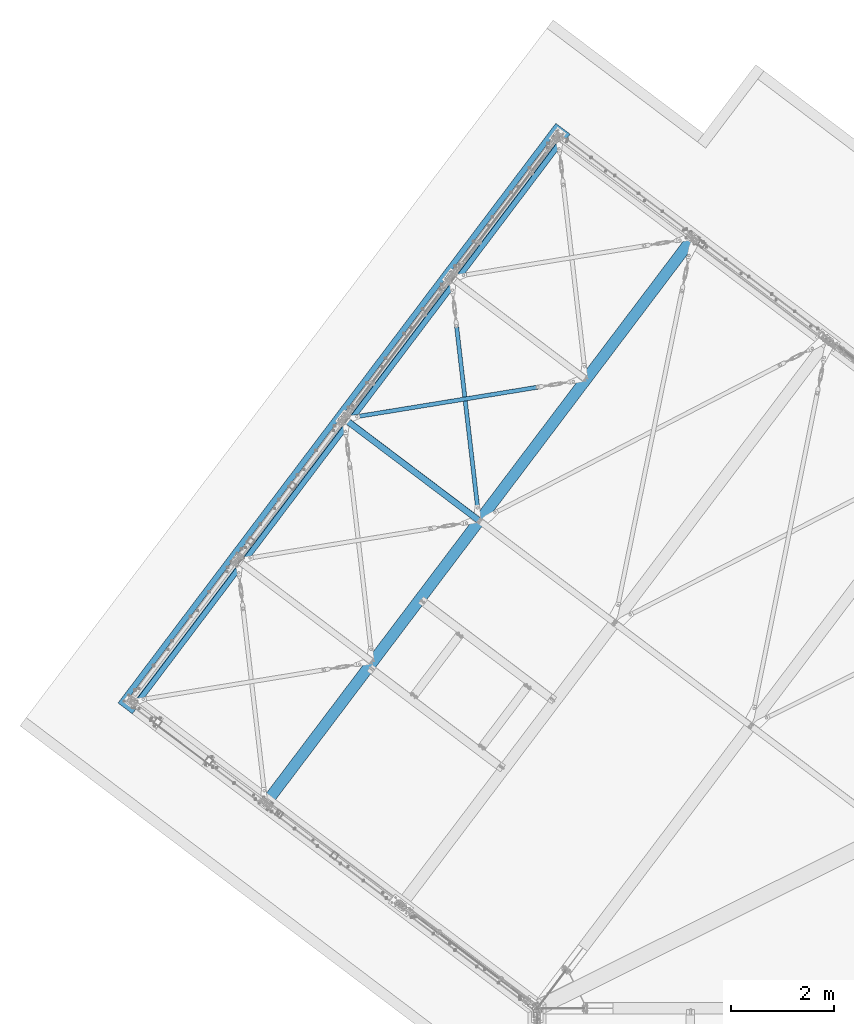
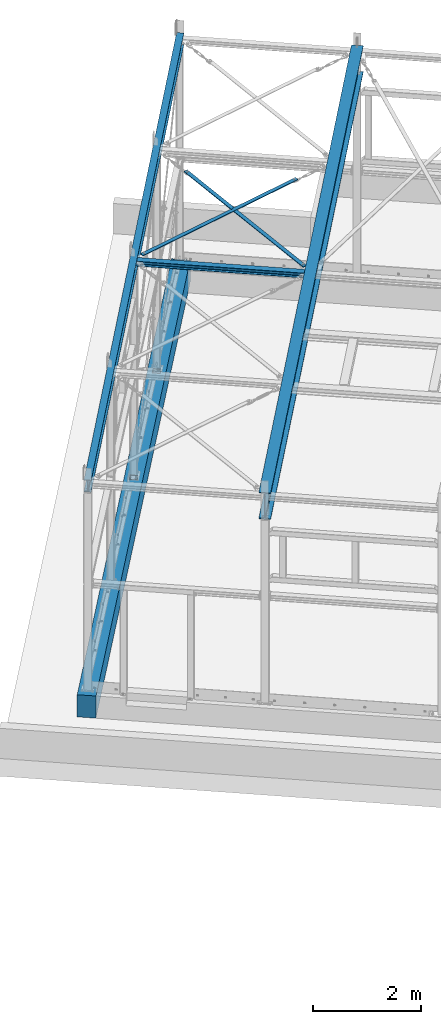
# One storey, part 22 of 476: 4 members, 2 beams, 62 openings.
"""IFC2X3 building model written with IfcOpenShell, lengths in millimetres."""

from ifc_helpers import new_model, entity, si_unit, converted_unit, frame, frame_2d, origin, origin_with_axes, origin_2d, origin_2d_with_axis, place, context, project, spatial, polyline, rectangle, circle, i_section, outline, extrude, clip, halfspace, material, element, save


model = new_model("IFC2X3")

# Units and contexts
model_context = context("Model", 3, precision=1e-09, world=origin_with_axes())
ifc_project = project(units=[si_unit("LENGTHUNIT", "METRE", prefix="MILLI"), si_unit("AREAUNIT", "SQUARE_METRE"), si_unit("VOLUMEUNIT", "CUBIC_METRE"), converted_unit("PLANEANGLEUNIT", "DEGREE", entity("IfcPlaneAngleMeasure", 0.01745329), si_unit("PLANEANGLEUNIT", "RADIAN"), dimensions=[0, 0, 0, 0, 0, 0, 0])], contexts=[model_context])

# Site, building, storey
site_placement = place(None, origin_with_axes())
site = spatial("IfcSite", under=ifc_project, at=site_placement, Name="mKR Teilneubau & Sanierung BA1 - Ostfildern", CompositionType="ELEMENT")
building_placement = place(site_placement, origin_with_axes())
building = spatial("IfcBuilding", under=site, at=building_placement, Name="Struktur 1", CompositionType="ELEMENT")
storey_placement = place(building_placement, origin_with_axes())
storey = spatial("IfcBuildingStorey", under=building, at=storey_placement, Name="Default Storey", CompositionType="ELEMENT", Elevation=0.0)

# Member, openings
ifc_material_1 = material(Name="S235JR")
member_1_placement = place(None, frame((8238.874919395, 6161.685260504, 5513.508843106), z_axis=(-0.986798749, -0.160487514, -0.021725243), x_axis=(0.018108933, 0.0239618, -0.999548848)))
member_1 = element("IfcMember", 1, at=member_1_placement, inside=storey, material=ifc_material_1, Name="-", ObjectType="-", context=model_context, shape_type="SweptSolid", body=[
    extrude(rectangle(XDim=15.0, YDim=80.0, at=origin_2d()), origin(), (0.0, 0.0, 1.0), 3695.564817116),
])
opening_1_placement = place(member_1_placement, frame((8.0, 0.0, 45.499), z_axis=(1.0, 0.0, 0.0), x_axis=(0.0, 1.0, 0.0)))
element("IfcOpeningElement", 2, at=opening_1_placement, cuts=member_1, ObjectType="Opening", context=model_context, shape_type="SweptSolid", body=[
    extrude(circle(Radius=14.501, at=frame_2d((0.0, 14.501), x_axis=(1.0, 0.0))), origin(), (0.0, 0.0, -1.0), 16.0),
])
opening_2_placement = place(member_1_placement, frame((8.0, 0.0, 3621.06381712), z_axis=(1.0, 0.0, 0.0), x_axis=(0.0, 1.0, 0.0)))
element("IfcOpeningElement", 3, at=opening_2_placement, cuts=member_1, ObjectType="Opening", context=model_context, shape_type="SweptSolid", body=[
    extrude(circle(Radius=14.501, at=frame_2d((0.0, 14.501), x_axis=(1.0, 0.0))), origin(), (0.0, 0.0, -1.0), 16.0),
])

member_2_placement = place(None, frame((2580.273087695, -2349.483284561, 4959.248116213), z_axis=(0.602462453, 0.797581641, 0.030041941), x_axis=(-0.797941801, 0.602734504, 0.0)))
member_2 = element("IfcMember", 4, at=member_2_placement, inside=storey, material=ifc_material_1, Name="-", ObjectType="-", context=model_context, shape_type="Clipping", body=[
    clip(clip(extrude(i_section(OverallWidth=220.0, OverallDepth=600.0, WebThickness=12.0, FlangeThickness=19.0, FilletRadius=24.0, at=origin_2d()), origin(), (0.0, 0.0, 1.0), 14725.706361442), halfspace(frame((3475.022396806, -4970.169003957, 288.847755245), z_axis=(0.0, -0.030041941, 0.999548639), x_axis=(1.0, 0.0, 0.0)), True)), halfspace(frame((3475.022396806, -5388.142475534, 14195.565970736), z_axis=(0.0, 0.030041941, -0.999548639), x_axis=(-1.0, 0.0, 0.0)), True)),
])
opening_3_placement = place(member_2_placement, frame((-6.5, 183.025518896, 7373.369640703), z_axis=(1.0, 0.0, 0.0), x_axis=(0.0, 1.0, 1.4557e-05)))
element("IfcOpeningElement", 5, at=opening_3_placement, cuts=member_2, ObjectType="Opening", context=model_context, shape_type="SweptSolid", body=[
    extrude(circle(Radius=7.001, at=origin_2d_with_axis()), origin(), (0.0, 0.0, 1.0), 13.0),
])
opening_4_placement = place(member_2_placement, frame((-6.5, 183.024645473, 7433.369640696), z_axis=(1.0, 0.0, 0.0), x_axis=(0.0, 1.0, 1.4557e-05)))
element("IfcOpeningElement", 6, at=opening_4_placement, cuts=member_2, ObjectType="Opening", context=model_context, shape_type="SweptSolid", body=[
    extrude(circle(Radius=7.001, at=origin_2d_with_axis()), origin(), (0.0, 0.0, 1.0), 13.0),
])
opening_5_placement = place(member_2_placement, frame((6.5, 183.02707866, 14281.485465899), z_axis=(-1.0, 0.0, 0.0), x_axis=(0.0, 1.0, 0.0)))
element("IfcOpeningElement", 7, at=opening_5_placement, cuts=member_2, ObjectType="Opening", context=model_context, shape_type="SweptSolid", body=[
    extrude(circle(Radius=7.001, at=origin_2d_with_axis()), origin(), (0.0, 0.0, 1.0), 13.0),
])
opening_6_placement = place(member_2_placement, frame((6.5, 183.02707866, 14331.485465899), z_axis=(-1.0, 0.0, 0.0), x_axis=(0.0, 1.0, 0.0)))
element("IfcOpeningElement", 8, at=opening_6_placement, cuts=member_2, ObjectType="Opening", context=model_context, shape_type="SweptSolid", body=[
    extrude(circle(Radius=7.001, at=origin_2d_with_axis()), origin(), (0.0, 0.0, 1.0), 13.0),
])
opening_7_placement = place(member_2_placement, frame((-6.5, 183.027080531, 525.253903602), z_axis=(1.0, 0.0, 0.0), x_axis=(0.0, 1.0, 0.0)))
element("IfcOpeningElement", 9, at=opening_7_placement, cuts=member_2, ObjectType="Opening", context=model_context, shape_type="SweptSolid", body=[
    extrude(circle(Radius=7.001, at=origin_2d_with_axis()), origin(), (0.0, 0.0, 1.0), 13.0),
])
opening_8_placement = place(member_2_placement, frame((-6.5, 183.027080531, 475.253903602), z_axis=(1.0, 0.0, 0.0), x_axis=(0.0, 1.0, 0.0)))
element("IfcOpeningElement", 10, at=opening_8_placement, cuts=member_2, ObjectType="Opening", context=model_context, shape_type="SweptSolid", body=[
    extrude(circle(Radius=7.001, at=origin_2d_with_axis()), origin(), (0.0, 0.0, 1.0), 13.0),
])
opening_9_placement = place(member_2_placement, frame((37.999, -300.5, 14263.867080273), z_axis=(0.0, -1.0, 0.0), x_axis=(1.0, 0.0, 0.0)))
element("IfcOpeningElement", 11, at=opening_9_placement, cuts=member_2, ObjectType="Opening", context=model_context, shape_type="SweptSolid", body=[
    extrude(circle(Radius=7.001, at=frame_2d((7.001, 0.0), x_axis=(1.0, 0.0))), origin(), (0.0, 0.0, -1.0), 20.0),
])
opening_10_placement = place(member_2_placement, frame((-52.001, -300.5, 14318.867080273), z_axis=(0.0, -1.0, 0.0), x_axis=(1.0, 0.0, 0.0)))
element("IfcOpeningElement", 12, at=opening_10_placement, cuts=member_2, ObjectType="Opening", context=model_context, shape_type="SweptSolid", body=[
    extrude(circle(Radius=7.001, at=frame_2d((7.001, 0.0), x_axis=(1.0, 0.0))), origin(), (0.0, 0.0, -1.0), 20.0),
])
opening_11_placement = place(member_2_placement, frame((37.999, -300.5, 14318.867080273), z_axis=(0.0, -1.0, 0.0), x_axis=(1.0, 0.0, 0.0)))
element("IfcOpeningElement", 13, at=opening_11_placement, cuts=member_2, ObjectType="Opening", context=model_context, shape_type="SweptSolid", body=[
    extrude(circle(Radius=7.001, at=frame_2d((7.001, 0.0), x_axis=(1.0, 0.0))), origin(), (0.0, 0.0, -1.0), 20.0),
])
opening_12_placement = place(member_2_placement, frame((-52.001, -300.5, 14263.867080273), z_axis=(0.0, -1.0, 0.0), x_axis=(1.0, 0.0, 0.0)))
element("IfcOpeningElement", 14, at=opening_12_placement, cuts=member_2, ObjectType="Opening", context=model_context, shape_type="SweptSolid", body=[
    extrude(circle(Radius=7.001, at=frame_2d((7.001, 0.0), x_axis=(1.0, 0.0))), origin(), (0.0, 0.0, -1.0), 20.0),
])
opening_13_placement = place(member_2_placement, frame((-6.5, 247.888062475, 14352.955309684), z_axis=(1.0, 0.0, 0.0), x_axis=(0.0, 0.030041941, -0.999548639)))
element("IfcOpeningElement", 15, at=opening_13_placement, cuts=member_2, ObjectType="Opening", context=model_context, shape_type="SweptSolid", body=[
    extrude(circle(Radius=7.001, at=origin_2d_with_axis()), origin(), (0.0, 0.0, 1.0), 13.0),
])
opening_14_placement = place(member_2_placement, frame((-6.5, -247.888062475, 14338.054506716), z_axis=(1.0, 0.0, 0.0), x_axis=(0.0, 0.030041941, -0.999548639)))
element("IfcOpeningElement", 16, at=opening_14_placement, cuts=member_2, ObjectType="Opening", context=model_context, shape_type="SweptSolid", body=[
    extrude(circle(Radius=7.001, at=origin_2d_with_axis()), origin(), (0.0, 0.0, 1.0), 13.0),
])
opening_15_placement = place(member_2_placement, frame((-37.999, -300.5, 457.635427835), z_axis=(0.0, -1.0, 0.0), x_axis=(1.0, 0.0, 0.0)))
element("IfcOpeningElement", 17, at=opening_15_placement, cuts=member_2, ObjectType="Opening", context=model_context, shape_type="SweptSolid", body=[
    extrude(circle(Radius=7.001, at=frame_2d((-7.001, 0.0), x_axis=(1.0, 0.0))), origin(), (0.0, 0.0, -1.0), 20.0),
])
opening_16_placement = place(member_2_placement, frame((-37.999, -300.5, 512.635427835), z_axis=(0.0, -1.0, 0.0), x_axis=(1.0, 0.0, 0.0)))
element("IfcOpeningElement", 18, at=opening_16_placement, cuts=member_2, ObjectType="Opening", context=model_context, shape_type="SweptSolid", body=[
    extrude(circle(Radius=7.001, at=frame_2d((-7.001, 0.0), x_axis=(1.0, 0.0))), origin(), (0.0, 0.0, -1.0), 20.0),
])
opening_17_placement = place(member_2_placement, frame((52.001, -300.5, 457.635427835), z_axis=(0.0, -1.0, 0.0), x_axis=(1.0, 0.0, 0.0)))
element("IfcOpeningElement", 19, at=opening_17_placement, cuts=member_2, ObjectType="Opening", context=model_context, shape_type="SweptSolid", body=[
    extrude(circle(Radius=7.001, at=frame_2d((-7.001, 0.0), x_axis=(1.0, 0.0))), origin(), (0.0, 0.0, -1.0), 20.0),
])
opening_18_placement = place(member_2_placement, frame((52.001, -300.5, 512.635427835), z_axis=(0.0, -1.0, 0.0), x_axis=(1.0, 0.0, 0.0)))
element("IfcOpeningElement", 20, at=opening_18_placement, cuts=member_2, ObjectType="Opening", context=model_context, shape_type="SweptSolid", body=[
    extrude(circle(Radius=7.001, at=frame_2d((-7.001, 0.0), x_axis=(1.0, 0.0))), origin(), (0.0, 0.0, -1.0), 20.0),
])
opening_19_placement = place(member_2_placement, frame((6.5, 247.888062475, 457.683526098), z_axis=(-1.0, 0.0, 0.0), x_axis=(0.0, -0.030041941, 0.999548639)))
element("IfcOpeningElement", 21, at=opening_19_placement, cuts=member_2, ObjectType="Opening", context=model_context, shape_type="SweptSolid", body=[
    extrude(circle(Radius=7.001, at=origin_2d_with_axis()), origin(), (0.0, 0.0, 1.0), 13.0),
])
opening_20_placement = place(member_2_placement, frame((6.5, -247.888062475, 442.782723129), z_axis=(-1.0, 0.0, 0.0), x_axis=(0.0, -0.030041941, 0.999548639)))
element("IfcOpeningElement", 22, at=opening_20_placement, cuts=member_2, ObjectType="Opening", context=model_context, shape_type="SweptSolid", body=[
    extrude(circle(Radius=7.001, at=origin_2d_with_axis()), origin(), (0.0, 0.0, 1.0), 13.0),
])
opening_21_placement = place(member_2_placement, frame((-6.5, 183.026702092, 10824.926021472), z_axis=(1.0, 0.0, 0.0), x_axis=(0.0, 1.0, 2.069e-05)))
element("IfcOpeningElement", 23, at=opening_21_placement, cuts=member_2, ObjectType="Opening", context=model_context, shape_type="SweptSolid", body=[
    extrude(circle(Radius=7.001, at=origin_2d_with_axis()), origin(), (0.0, 0.0, 1.0), 13.0),
])
opening_22_placement = place(member_2_placement, frame((-6.5, 183.025460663, 10884.926021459), z_axis=(1.0, 0.0, 0.0), x_axis=(0.0, 1.0, 2.069e-05)))
element("IfcOpeningElement", 24, at=opening_22_placement, cuts=member_2, ObjectType="Opening", context=model_context, shape_type="SweptSolid", body=[
    extrude(circle(Radius=7.001, at=origin_2d_with_axis()), origin(), (0.0, 0.0, 1.0), 13.0),
])
opening_23_placement = place(member_2_placement, frame((-6.5, 183.027080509, 3981.810209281), z_axis=(1.0, 0.0, 0.0), x_axis=(0.0, 1.0, 0.0)))
element("IfcOpeningElement", 25, at=opening_23_placement, cuts=member_2, ObjectType="Opening", context=model_context, shape_type="SweptSolid", body=[
    extrude(circle(Radius=7.001, at=origin_2d_with_axis()), origin(), (0.0, 0.0, 1.0), 13.0),
])
opening_24_placement = place(member_2_placement, frame((-6.5, 183.027080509, 3921.810209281), z_axis=(1.0, 0.0, 0.0), x_axis=(0.0, 1.0, 0.0)))
element("IfcOpeningElement", 26, at=opening_24_placement, cuts=member_2, ObjectType="Opening", context=model_context, shape_type="SweptSolid", body=[
    extrude(circle(Radius=7.001, at=origin_2d_with_axis()), origin(), (0.0, 0.0, 1.0), 13.0),
])

member_3_placement = place(None, frame((122.900229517, -133.483637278, 5132.951420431), z_axis=(0.602462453, 0.797581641, 0.030041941), x_axis=(-0.797941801, 0.602734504, 0.0)))
member_3 = element("IfcMember", 27, at=member_3_placement, inside=storey, material=ifc_material_1, Name="-", ObjectType="-", context=model_context, shape_type="Clipping", body=[
    clip(extrude(i_section(OverallWidth=135.0, OverallDepth=270.0, WebThickness=6.6, FlangeThickness=10.2, FilletRadius=15.0, at=origin_2d()), origin(), (0.0, 0.0, 1.0), 14138.984346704), halfspace(frame((178.522424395, -5135.169004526, -3.336364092), z_axis=(0.0, -0.030041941, 0.999548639), x_axis=(1.0, 0.0, 0.0)), True)),
])
opening_25_placement = place(member_3_placement, frame((167.600000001, -212.707520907, 14252.130323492), z_axis=(1.0, 0.0, 0.0), x_axis=(0.0, 0.030041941, -0.999548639)))
element("IfcOpeningElement", 28, at=opening_25_placement, cuts=member_3, ObjectType="Opening", context=model_context, shape_type="SweptSolid", body=[
    extrude(outline(polyline([(0.0, 0.0), (188.154025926, 0.0), (188.154025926, 443.915604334), (0.0, 443.915604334), (0.0, 0.0)])), origin(), (0.0, 0.0, -1.0), 335.200000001),
])
opening_26_placement = place(member_3_placement, frame((-30.499, -135.5, 230.369625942), z_axis=(0.0, -1.0, 0.0), x_axis=(1.0, 0.0, 0.0)))
element("IfcOpeningElement", 29, at=opening_26_placement, cuts=member_3, ObjectType="Opening", context=model_context, shape_type="SweptSolid", body=[
    extrude(circle(Radius=7.001, at=frame_2d((-7.001, 0.0), x_axis=(1.0, 0.0))), origin(), (0.0, 0.0, -1.0), 11.2),
])
opening_27_placement = place(member_3_placement, frame((44.501, -135.5, 230.369625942), z_axis=(0.0, -1.0, 0.0), x_axis=(1.0, 0.0, 0.0)))
element("IfcOpeningElement", 30, at=opening_27_placement, cuts=member_3, ObjectType="Opening", context=model_context, shape_type="SweptSolid", body=[
    extrude(circle(Radius=7.001, at=frame_2d((-7.001, 0.0), x_axis=(1.0, 0.0))), origin(), (0.0, 0.0, -1.0), 11.2),
])
opening_28_placement = place(member_3_placement, frame((44.501, -135.5, 175.369625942), z_axis=(0.0, -1.0, 0.0), x_axis=(1.0, 0.0, 0.0)))
element("IfcOpeningElement", 31, at=opening_28_placement, cuts=member_3, ObjectType="Opening", context=model_context, shape_type="SweptSolid", body=[
    extrude(circle(Radius=7.001, at=frame_2d((-7.001, 0.0), x_axis=(1.0, 0.0))), origin(), (0.0, 0.0, -1.0), 11.2),
])
opening_29_placement = place(member_3_placement, frame((-30.499, -135.5, 175.369625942), z_axis=(0.0, -1.0, 0.0), x_axis=(1.0, 0.0, 0.0)))
element("IfcOpeningElement", 32, at=opening_29_placement, cuts=member_3, ObjectType="Opening", context=model_context, shape_type="SweptSolid", body=[
    extrude(circle(Radius=7.001, at=frame_2d((-7.001, 0.0), x_axis=(1.0, 0.0))), origin(), (0.0, 0.0, -1.0), 11.2),
])
opening_30_placement = place(member_3_placement, frame((3.8, 18.027080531, 233.070107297), z_axis=(-1.0, 0.0, 0.0), x_axis=(0.0, 1.0, 0.0)))
element("IfcOpeningElement", 33, at=opening_30_placement, cuts=member_3, ObjectType="Opening", context=model_context, shape_type="SweptSolid", body=[
    extrude(circle(Radius=7.001, at=origin_2d_with_axis()), origin(), (0.0, 0.0, 1.0), 7.6),
])
opening_31_placement = place(member_3_placement, frame((3.8, 18.027080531, 183.070107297), z_axis=(-1.0, 0.0, 0.0), x_axis=(0.0, 1.0, 0.0)))
element("IfcOpeningElement", 34, at=opening_31_placement, cuts=member_3, ObjectType="Opening", context=model_context, shape_type="SweptSolid", body=[
    extrude(circle(Radius=7.001, at=origin_2d_with_axis()), origin(), (0.0, 0.0, 1.0), 7.6),
])
opening_32_placement = place(member_3_placement, frame((3.8, 100.95441254, 166.042400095), z_axis=(-1.0, 0.0, 0.0), x_axis=(0.0, -0.030041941, 0.999548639)))
element("IfcOpeningElement", 35, at=opening_32_placement, cuts=member_3, ObjectType="Opening", context=model_context, shape_type="SweptSolid", body=[
    extrude(circle(Radius=7.001, at=origin_2d_with_axis()), origin(), (0.0, 0.0, 1.0), 7.6),
])
opening_33_placement = place(member_3_placement, frame((3.8, -100.95441254, 159.973927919), z_axis=(-1.0, 0.0, 0.0), x_axis=(0.0, -0.030041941, 0.999548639)))
element("IfcOpeningElement", 36, at=opening_33_placement, cuts=member_3, ObjectType="Opening", context=model_context, shape_type="SweptSolid", body=[
    extrude(circle(Radius=7.001, at=origin_2d_with_axis()), origin(), (0.0, 0.0, 1.0), 7.6),
])
opening_34_placement = place(member_3_placement, frame((3.8, 18.027078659, 13989.301701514), z_axis=(-1.0, 0.0, 0.0), x_axis=(0.0, 1.0, 0.0)))
element("IfcOpeningElement", 37, at=opening_34_placement, cuts=member_3, ObjectType="Opening", context=model_context, shape_type="SweptSolid", body=[
    extrude(circle(Radius=7.001, at=origin_2d_with_axis()), origin(), (0.0, 0.0, 1.0), 7.6),
])
opening_35_placement = place(member_3_placement, frame((-28.999999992, -135.5, 13980.100669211), z_axis=(0.0, -1.0, 0.0), x_axis=(1.0, 0.0, 0.0)))
element("IfcOpeningElement", 38, at=opening_35_placement, cuts=member_3, ObjectType="Opening", context=model_context, shape_type="SweptSolid", body=[
    extrude(circle(Radius=7.001, at=frame_2d((0.0, -7.001), x_axis=(1.0, 0.0))), origin(), (0.0, 0.0, -1.0), 11.2),
])
opening_36_placement = place(member_3_placement, frame((36.000020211, -135.5, 10532.044351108), z_axis=(0.0, -1.0, 0.0), x_axis=(1.0, 0.0, 0.0)))
element("IfcOpeningElement", 39, at=opening_36_placement, cuts=member_3, ObjectType="Opening", context=model_context, shape_type="SweptSolid", body=[
    extrude(circle(Radius=7.001, at=frame_2d((0.0, -7.001), x_axis=(1.0, 0.0))), origin(), (0.0, 0.0, -1.0), 11.2),
])
opening_37_placement = place(member_3_placement, frame((36.000020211, -135.5, 10583.042351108), z_axis=(0.0, -1.0, 0.0), x_axis=(1.0, 0.0, 0.0)))
element("IfcOpeningElement", 40, at=opening_37_placement, cuts=member_3, ObjectType="Opening", context=model_context, shape_type="SweptSolid", body=[
    extrude(circle(Radius=7.001, at=frame_2d((0.0, 7.001), x_axis=(1.0, 0.0))), origin(), (0.0, 0.0, -1.0), 11.2),
])
opening_38_placement = place(member_3_placement, frame((-28.999999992, -135.5, 14031.098669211), z_axis=(0.0, -1.0, 0.0), x_axis=(1.0, 0.0, 0.0)))
element("IfcOpeningElement", 41, at=opening_38_placement, cuts=member_3, ObjectType="Opening", context=model_context, shape_type="SweptSolid", body=[
    extrude(circle(Radius=7.001, at=frame_2d((0.0, 7.001), x_axis=(1.0, 0.0))), origin(), (0.0, 0.0, -1.0), 11.2),
])
opening_39_placement = place(member_3_placement, frame((-28.999959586, -135.5, 7080.486452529), z_axis=(0.0, -1.0, 0.0), x_axis=(1.0, 0.0, 0.0)))
element("IfcOpeningElement", 42, at=opening_39_placement, cuts=member_3, ObjectType="Opening", context=model_context, shape_type="SweptSolid", body=[
    extrude(circle(Radius=7.001, at=frame_2d((0.0, -7.001), x_axis=(1.0, 0.0))), origin(), (0.0, 0.0, -1.0), 11.2),
])
opening_40_placement = place(member_3_placement, frame((36.000040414, -135.5, 7080.486452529), z_axis=(0.0, -1.0, 0.0), x_axis=(1.0, 0.0, 0.0)))
element("IfcOpeningElement", 43, at=opening_40_placement, cuts=member_3, ObjectType="Opening", context=model_context, shape_type="SweptSolid", body=[
    extrude(circle(Radius=7.001, at=frame_2d((0.0, -7.001), x_axis=(1.0, 0.0))), origin(), (0.0, 0.0, -1.0), 11.2),
])
opening_41_placement = place(member_3_placement, frame((36.000060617, -135.5, 3679.926553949), z_axis=(0.0, -1.0, 0.0), x_axis=(1.0, 0.0, 0.0)))
element("IfcOpeningElement", 44, at=opening_41_placement, cuts=member_3, ObjectType="Opening", context=model_context, shape_type="SweptSolid", body=[
    extrude(circle(Radius=7.001, at=frame_2d((0.0, 7.001), x_axis=(1.0, 0.0))), origin(), (0.0, 0.0, -1.0), 11.2),
])
opening_42_placement = place(member_3_placement, frame((3.8, 18.027080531, 3629.627953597), z_axis=(-1.0, 0.0, 0.0), x_axis=(0.0, 1.0, 0.0)))
element("IfcOpeningElement", 45, at=opening_42_placement, cuts=member_3, ObjectType="Opening", context=model_context, shape_type="SweptSolid", body=[
    extrude(circle(Radius=7.001, at=origin_2d_with_axis()), origin(), (0.0, 0.0, 1.0), 7.6),
])
opening_43_placement = place(member_3_placement, frame((3.8, 18.024645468, 7141.185844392), z_axis=(-1.0, 0.0, 0.0), x_axis=(0.0, 1.0, 1.4557e-05)))
element("IfcOpeningElement", 46, at=opening_43_placement, cuts=member_3, ObjectType="Opening", context=model_context, shape_type="SweptSolid", body=[
    extrude(circle(Radius=7.001, at=origin_2d_with_axis()), origin(), (0.0, 0.0, 1.0), 7.6),
])
opening_44_placement = place(member_3_placement, frame((-28.999939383, -135.5, 3679.926553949), z_axis=(0.0, -1.0, 0.0), x_axis=(1.0, 0.0, 0.0)))
element("IfcOpeningElement", 47, at=opening_44_placement, cuts=member_3, ObjectType="Opening", context=model_context, shape_type="SweptSolid", body=[
    extrude(circle(Radius=7.001, at=frame_2d((0.0, 7.001), x_axis=(1.0, 0.0))), origin(), (0.0, 0.0, -1.0), 11.2),
])
opening_45_placement = place(member_3_placement, frame((3.8, 18.027078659, 14039.301701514), z_axis=(-1.0, 0.0, 0.0), x_axis=(0.0, 1.0, 0.0)))
element("IfcOpeningElement", 48, at=opening_45_placement, cuts=member_3, ObjectType="Opening", context=model_context, shape_type="SweptSolid", body=[
    extrude(circle(Radius=7.001, at=origin_2d_with_axis()), origin(), (0.0, 0.0, 1.0), 7.6),
])
opening_46_placement = place(member_3_placement, frame((3.8, 18.025460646, 10592.743765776), z_axis=(-1.0, 0.0, 0.0), x_axis=(0.0, 1.0, 2.069e-05)))
element("IfcOpeningElement", 49, at=opening_46_placement, cuts=member_3, ObjectType="Opening", context=model_context, shape_type="SweptSolid", body=[
    extrude(circle(Radius=7.001, at=origin_2d_with_axis()), origin(), (0.0, 0.0, 1.0), 7.6),
])
opening_47_placement = place(member_3_placement, frame((3.8, 18.026702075, 10532.743765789), z_axis=(-1.0, 0.0, 0.0), x_axis=(0.0, 1.0, 2.069e-05)))
element("IfcOpeningElement", 50, at=opening_47_placement, cuts=member_3, ObjectType="Opening", context=model_context, shape_type="SweptSolid", body=[
    extrude(circle(Radius=7.001, at=origin_2d_with_axis()), origin(), (0.0, 0.0, 1.0), 7.6),
])
opening_48_placement = place(member_3_placement, frame((36.000000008, -135.5, 13980.100669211), z_axis=(0.0, -1.0, 0.0), x_axis=(1.0, 0.0, 0.0)))
element("IfcOpeningElement", 51, at=opening_48_placement, cuts=member_3, ObjectType="Opening", context=model_context, shape_type="SweptSolid", body=[
    extrude(circle(Radius=7.001, at=frame_2d((0.0, -7.001), x_axis=(1.0, 0.0))), origin(), (0.0, 0.0, -1.0), 11.2),
])
opening_49_placement = place(member_3_placement, frame((36.000000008, -135.5, 14031.098669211), z_axis=(0.0, -1.0, 0.0), x_axis=(1.0, 0.0, 0.0)))
element("IfcOpeningElement", 52, at=opening_49_placement, cuts=member_3, ObjectType="Opening", context=model_context, shape_type="SweptSolid", body=[
    extrude(circle(Radius=7.001, at=frame_2d((0.0, 7.001), x_axis=(1.0, 0.0))), origin(), (0.0, 0.0, -1.0), 11.2),
])
opening_50_placement = place(member_3_placement, frame((-28.999979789, -135.5, 10532.044351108), z_axis=(0.0, -1.0, 0.0), x_axis=(1.0, 0.0, 0.0)))
element("IfcOpeningElement", 53, at=opening_50_placement, cuts=member_3, ObjectType="Opening", context=model_context, shape_type="SweptSolid", body=[
    extrude(circle(Radius=7.001, at=frame_2d((0.0, -7.001), x_axis=(1.0, 0.0))), origin(), (0.0, 0.0, -1.0), 11.2),
])
opening_51_placement = place(member_3_placement, frame((-28.999979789, -135.5, 10583.042351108), z_axis=(0.0, -1.0, 0.0), x_axis=(1.0, 0.0, 0.0)))
element("IfcOpeningElement", 54, at=opening_51_placement, cuts=member_3, ObjectType="Opening", context=model_context, shape_type="SweptSolid", body=[
    extrude(circle(Radius=7.001, at=frame_2d((0.0, 7.001), x_axis=(1.0, 0.0))), origin(), (0.0, 0.0, -1.0), 11.2),
])
opening_52_placement = place(member_3_placement, frame((36.000060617, -135.5, 3628.928553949), z_axis=(0.0, -1.0, 0.0), x_axis=(1.0, 0.0, 0.0)))
element("IfcOpeningElement", 55, at=opening_52_placement, cuts=member_3, ObjectType="Opening", context=model_context, shape_type="SweptSolid", body=[
    extrude(circle(Radius=7.001, at=frame_2d((0.0, -7.001), x_axis=(1.0, 0.0))), origin(), (0.0, 0.0, -1.0), 11.2),
])
opening_53_placement = place(member_3_placement, frame((36.000040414, -135.5, 7131.484452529), z_axis=(0.0, -1.0, 0.0), x_axis=(1.0, 0.0, 0.0)))
element("IfcOpeningElement", 56, at=opening_53_placement, cuts=member_3, ObjectType="Opening", context=model_context, shape_type="SweptSolid", body=[
    extrude(circle(Radius=7.001, at=frame_2d((0.0, 7.001), x_axis=(1.0, 0.0))), origin(), (0.0, 0.0, -1.0), 11.2),
])
opening_54_placement = place(member_3_placement, frame((-28.999959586, -135.5, 7131.484452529), z_axis=(0.0, -1.0, 0.0), x_axis=(1.0, 0.0, 0.0)))
element("IfcOpeningElement", 57, at=opening_54_placement, cuts=member_3, ObjectType="Opening", context=model_context, shape_type="SweptSolid", body=[
    extrude(circle(Radius=7.001, at=frame_2d((0.0, 7.001), x_axis=(1.0, 0.0))), origin(), (0.0, 0.0, -1.0), 11.2),
])
opening_55_placement = place(member_3_placement, frame((3.8, 18.025518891, 7081.185844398), z_axis=(-1.0, 0.0, 0.0), x_axis=(0.0, 1.0, 1.4557e-05)))
element("IfcOpeningElement", 58, at=opening_55_placement, cuts=member_3, ObjectType="Opening", context=model_context, shape_type="SweptSolid", body=[
    extrude(circle(Radius=7.001, at=origin_2d_with_axis()), origin(), (0.0, 0.0, 1.0), 7.6),
])
opening_56_placement = place(member_3_placement, frame((-28.999939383, -135.5, 3628.928553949), z_axis=(0.0, -1.0, 0.0), x_axis=(1.0, 0.0, 0.0)))
element("IfcOpeningElement", 59, at=opening_56_placement, cuts=member_3, ObjectType="Opening", context=model_context, shape_type="SweptSolid", body=[
    extrude(circle(Radius=7.001, at=frame_2d((0.0, -7.001), x_axis=(1.0, 0.0))), origin(), (0.0, 0.0, -1.0), 11.2),
])
opening_57_placement = place(member_3_placement, frame((3.8, 18.027080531, 3689.627953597), z_axis=(-1.0, 0.0, 0.0), x_axis=(0.0, 1.0, 0.0)))
element("IfcOpeningElement", 60, at=opening_57_placement, cuts=member_3, ObjectType="Opening", context=model_context, shape_type="SweptSolid", body=[
    extrude(circle(Radius=7.001, at=origin_2d_with_axis()), origin(), (0.0, 0.0, 1.0), 7.6),
])

member_4_placement = place(None, frame((6587.359478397, 7409.176689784, 5513.508849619), z_axis=(-0.115440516, 0.993076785, 0.021725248), x_axis=(0.018097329, 0.023970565, -0.999548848)))
member_4 = element("IfcMember", 61, at=member_4_placement, inside=storey, material=ifc_material_1, Name="-", ObjectType="-", context=model_context, shape_type="SweptSolid", body=[
    extrude(rectangle(XDim=15.0, YDim=80.0, at=origin_2d()), origin(), (0.0, 0.0, -1.0), 3695.564817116),
])
opening_58_placement = place(member_4_placement, frame((8.0, 0.0, -3635.56481712), z_axis=(-1.0, 0.0, 0.0), x_axis=(0.0, 0.0, -1.0)))
element("IfcOpeningElement", 62, at=opening_58_placement, cuts=member_4, ObjectType="Opening", context=model_context, shape_type="SweptSolid", body=[
    extrude(circle(Radius=14.501, at=origin_2d_with_axis()), origin(), (0.0, 0.0, 1.0), 16.0),
])
opening_59_placement = place(member_4_placement, frame((8.0, 0.0, -60.0), z_axis=(-1.0, 0.0, 0.0), x_axis=(0.0, 0.0, -1.0)))
element("IfcOpeningElement", 63, at=opening_59_placement, cuts=member_4, ObjectType="Opening", context=model_context, shape_type="SweptSolid", body=[
    extrude(circle(Radius=14.501, at=origin_2d_with_axis()), origin(), (0.0, 0.0, 1.0), 16.0),
])

# Beam
beam_1_placement = place(None, frame((4340.759688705, 5587.717081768, 5364.602196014), z_axis=(-0.797941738, 0.602734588, 0.0), x_axis=(-0.602462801, -0.797581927, -0.030027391)))
element("IfcBeam", 64, at=beam_1_placement, inside=storey, material=ifc_material_1, Name="-", ObjectType="-", context=model_context, shape_type="Clipping", body=[
    clip(clip(extrude(i_section(OverallWidth=120.0, OverallDepth=114.0, WebThickness=5.0, FlangeThickness=8.0, FilletRadius=12.0, at=origin_2d()), origin(), (0.0, 0.0, -1.0), 3462.017329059), halfspace(frame((7232.893039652, -5149.739418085, -3361.258437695), z_axis=(1.05e-07, 0.0, 1.0), x_axis=(0.999549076, 0.030027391, -1.05e-07)), True)), halfspace(frame((7232.893381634, -5149.739418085, -98.060465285), z_axis=(-1.05e-07, 0.0, -1.0), x_axis=(-0.999549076, -0.030027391, 1.05e-07)), True)),
])

# Beam, openings
ifc_material_2 = material(Name="C25/30")
beam_2_placement = place(None, frame((139.657592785, -105.492011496, 250.0), z_axis=(-0.602734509, -0.797941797, 0.0), x_axis=(0.797941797, -0.602734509, 0.0)))
beam_2 = element("IfcBeam", 65, at=beam_2_placement, inside=storey, material=ifc_material_2, Name="-", ObjectType="-", context=model_context, shape_type="SweptSolid", body=[
    extrude(outline(polyline([(175.0, -250.0), (175.0, 250.0), (-175.0, 250.0), (-175.0, -250.0), (175.0, -250.0)])), origin(), (0.0, 0.0, -1.0), 14150.000077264),
])
opening_60_placement = place(beam_2_placement, frame((175.0, 50.0, -14150.000077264), z_axis=(0.0, 1.0, 0.0), x_axis=(1.0, 0.0, 0.0)))
element("IfcOpeningElement", 66, at=opening_60_placement, cuts=beam_2, ObjectType="Opening", context=model_context, shape_type="SweptSolid", body=[
    extrude(outline(polyline([(-99.998963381, -245.002418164), (-99.998963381, -105.000418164), (-250.000963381, -105.000418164), (-250.000963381, -245.002418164), (-99.998963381, -245.002418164)])), origin(), (0.0, 0.0, 1.0), 300.1),
])
opening_61_placement = place(beam_2_placement, frame((175.0, 50.0, -14150.000077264), z_axis=(0.0, 1.0, 0.0), x_axis=(1.0, 0.0, 0.0)))
element("IfcOpeningElement", 67, at=opening_61_placement, cuts=beam_2, ObjectType="Opening", context=model_context, shape_type="SweptSolid", body=[
    extrude(outline(polyline([(-99.998963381, -3695.002395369), (-99.998963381, -3555.000395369), (-250.000963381, -3555.000395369), (-250.000963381, -3695.002395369), (-99.998963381, -3695.002395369)])), origin(), (0.0, 0.0, 1.0), 300.1),
])
opening_62_placement = place(beam_2_placement, frame((175.0, 50.0, -14150.000077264), z_axis=(0.0, 1.0, 0.0), x_axis=(1.0, 0.0, 0.0)))
element("IfcOpeningElement", 68, at=opening_62_placement, cuts=beam_2, ObjectType="Opening", context=model_context, shape_type="SweptSolid", body=[
    extrude(outline(polyline([(-99.998963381, -7145.002437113), (-99.998963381, -7005.000437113), (-250.000963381, -7005.000437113), (-250.000963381, -7145.002437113), (-99.998963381, -7145.002437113)])), origin(), (0.0, 0.0, 1.0), 300.1),
])

save(model, "model.ifc")
